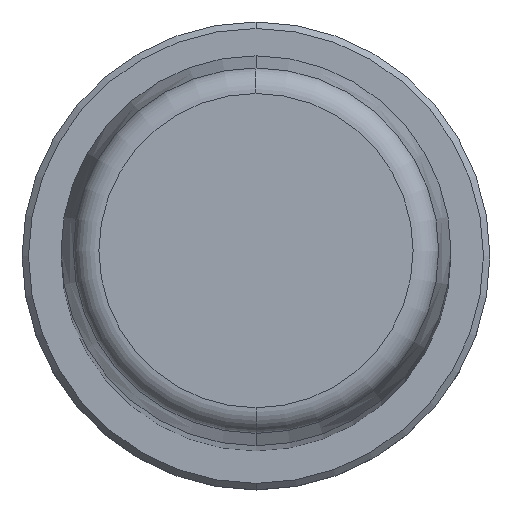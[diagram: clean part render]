
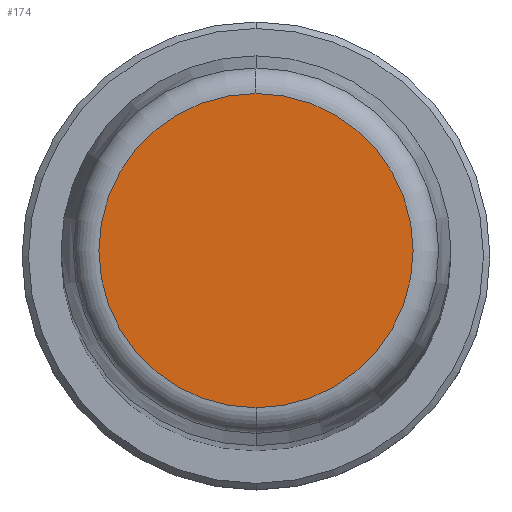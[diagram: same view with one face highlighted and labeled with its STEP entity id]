
A CAD part, top view. The second image highlights one B-rep face of the part: STEP entity #174.
In plain terms, the highlighted planar face has unit normal (0, 0, 1).
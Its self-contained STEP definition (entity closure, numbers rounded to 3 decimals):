
#1=CARTESIAN_POINT('',(0.,0.,240.));
#2=DIRECTION('',(0.,0.,-1.));
#3=DIRECTION('',(0.,-1.,0.));
#4=AXIS2_PLACEMENT_3D('',#1,#2,#3);
#6=CARTESIAN_POINT('',(0.,0.,240.));
#7=DIRECTION('',(0.,0.,-1.));
#8=DIRECTION('',(0.,1.,0.));
#9=AXIS2_PLACEMENT_3D('',#6,#7,#8);
#159=CARTESIAN_POINT('',(0.,-12.088,240.));
#160=CARTESIAN_POINT('',(0.,12.088,240.));
#161=VERTEX_POINT('',#159);
#162=VERTEX_POINT('',#160);
#163=CARTESIAN_POINT('',(0.,0.,240.));
#164=DIRECTION('',(0.,0.,1.));
#165=DIRECTION('',(0.,-1.,0.));
#166=AXIS2_PLACEMENT_3D('',#163,#164,#165);
#167=PLANE('',#166);
#169=ORIENTED_EDGE('',*,*,#168,.T.);
#171=ORIENTED_EDGE('',*,*,#170,.T.);
#172=EDGE_LOOP('',(#169,#171));
#173=FACE_OUTER_BOUND('',#172,.F.);
#174=ADVANCED_FACE('',(#173),#167,.T.);
#5=CIRCLE('',#4,12.088);
#10=CIRCLE('',#9,12.088);
#168=EDGE_CURVE('',#161,#162,#5,.T.);
#170=EDGE_CURVE('',#162,#161,#10,.T.);
